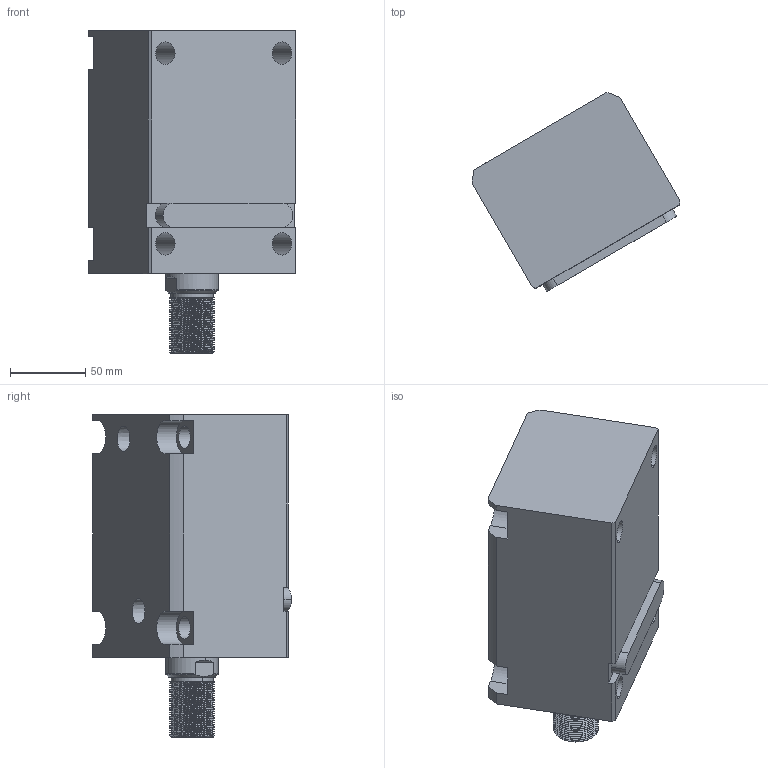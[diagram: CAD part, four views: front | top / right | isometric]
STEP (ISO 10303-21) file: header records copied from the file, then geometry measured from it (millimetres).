
FILE_DESCRIPTION (( 'STEP AP214' ), '1' );
FILE_NAME ('chtb-la63x95w_asm.STEP', '2018-05-17T03:12:36', ( 'Windows' ), ( 'Microsoft' ), 'SwSTEP 2.0', 'SolidWorks 2015', '' );
FILE_SCHEMA (( 'AUTOMOTIVE_DESIGN' ));
Length unit declared in the file: millimetre
Products named in the file (5): CHTB-LA63X95NBT; CHTB-LA63PJ; CHTB63X95WHSG; CHTB-63QG; chtb-la63x95w_asm
Assembly tree (4 placements, depth 2):
  chtb-la63x95w_asm
    CHTB-63QG
    CHTB63X95WHSG
    CHTB-LA63PJ
    CHTB-LA63X95NBT
Bounding box: 138.53 x 132.56 x 215 mm (x, y, z)
Volume: 1395951.7 mm3; surface area: 188858.1 mm2
Topology: 4 solids, 4 shells, 228 faces, 670 edges, 457 vertices
Faces by surface type: cylinder 147, plane 48, bspline 14, cone 13, torus 6
Entity records: 22769 total; most frequent: CARTESIAN_POINT 17126, ORIENTED_EDGE 1332, DIRECTION 940, EDGE_CURVE 666, VERTEX_POINT 457, AXIS2_PLACEMENT_3D 350, EDGE_LOOP 253, LINE 240
